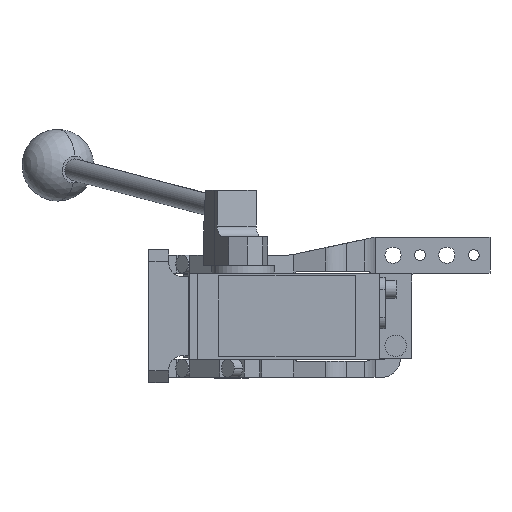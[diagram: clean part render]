
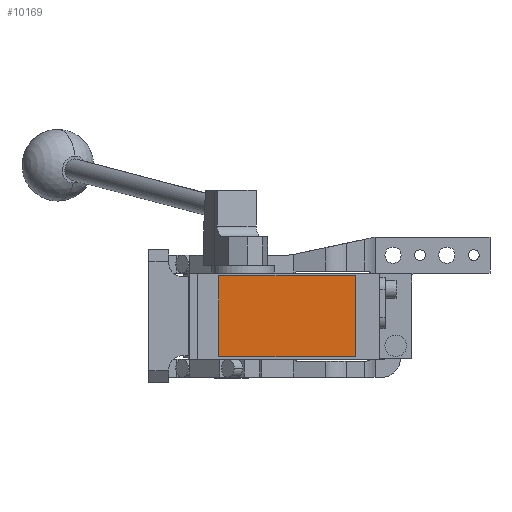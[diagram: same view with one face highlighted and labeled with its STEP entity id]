
A CAD part, front view. The second image highlights one B-rep face of the part: STEP entity #10169.
In plain terms, the highlighted planar face has unit normal (0, -1, 0).
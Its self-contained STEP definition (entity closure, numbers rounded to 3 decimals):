
#414 = ORIENTED_EDGE ( 'NONE', *, *, #12195, .T. ) ;
#1583 = VECTOR ( 'NONE', #12106, 1000. ) ;
#1772 = VECTOR ( 'NONE', #6261, 1000. ) ;
#2152 = VERTEX_POINT ( 'NONE', #4547 ) ;
#2179 = CARTESIAN_POINT ( 'NONE',  ( 69., -280.5, 22.5 ) ) ;
#2233 = ORIENTED_EDGE ( 'NONE', *, *, #3558, .T. ) ;
#2262 = LINE ( 'NONE', #2179, #7645 ) ;
#2752 = CARTESIAN_POINT ( 'NONE',  ( -7., -280.5, 22.5 ) ) ;
#2782 = AXIS2_PLACEMENT_3D ( 'NONE', #3934, #5236, #11398 ) ;
#3272 = VERTEX_POINT ( 'NONE', #5259 ) ;
#3558 = EDGE_CURVE ( 'NONE', #2152, #3272, #5353, .T. ) ;
#3599 = DIRECTION ( 'NONE',  ( 0., 0., 1. ) ) ;
#3618 = EDGE_LOOP ( 'NONE', ( #9021, #2233, #414, #14873 ) ) ;
#3934 = CARTESIAN_POINT ( 'NONE',  ( 0., -280.5, 0. ) ) ;
#4398 = VECTOR ( 'NONE', #15745, 1000. ) ;
#4547 = CARTESIAN_POINT ( 'NONE',  ( -7., -280.5, -22.5 ) ) ;
#4767 = VERTEX_POINT ( 'NONE', #2752 ) ;
#5151 = PLANE ( 'NONE',  #2782 ) ;
#5236 = DIRECTION ( 'NONE',  ( 0., -1., 0. ) ) ;
#5259 = CARTESIAN_POINT ( 'NONE',  ( 69., -280.5, -22.5 ) ) ;
#5353 = LINE ( 'NONE', #12744, #1772 ) ;
#6022 = LINE ( 'NONE', #11042, #1583 ) ;
#6261 = DIRECTION ( 'NONE',  ( 1., 0., 0. ) ) ;
#7109 = CARTESIAN_POINT ( 'NONE',  ( -7., -280.5, 22.5 ) ) ;
#7645 = VECTOR ( 'NONE', #3599, 1000. ) ;
#7900 = FACE_OUTER_BOUND ( 'NONE', #3618, .T. ) ;
#9021 = ORIENTED_EDGE ( 'NONE', *, *, #9994, .T. ) ;
#9994 = EDGE_CURVE ( 'NONE', #4767, #2152, #15833, .T. ) ;
#10169 = ADVANCED_FACE ( 'NONE', ( #7900 ), #5151, .T. ) ;
#11042 = CARTESIAN_POINT ( 'NONE',  ( -7., -280.5, 22.5 ) ) ;
#11343 = CARTESIAN_POINT ( 'NONE',  ( 69., -280.5, 22.5 ) ) ;
#11398 = DIRECTION ( 'NONE',  ( 0., 0., -1. ) ) ;
#12106 = DIRECTION ( 'NONE',  ( -1., 0., 0. ) ) ;
#12195 = EDGE_CURVE ( 'NONE', #3272, #15901, #2262, .T. ) ;
#12744 = CARTESIAN_POINT ( 'NONE',  ( -7., -280.5, -22.5 ) ) ;
#13602 = EDGE_CURVE ( 'NONE', #15901, #4767, #6022, .T. ) ;
#14873 = ORIENTED_EDGE ( 'NONE', *, *, #13602, .T. ) ;
#15745 = DIRECTION ( 'NONE',  ( 0., 0., -1. ) ) ;
#15833 = LINE ( 'NONE', #7109, #4398 ) ;
#15901 = VERTEX_POINT ( 'NONE', #11343 ) ;
